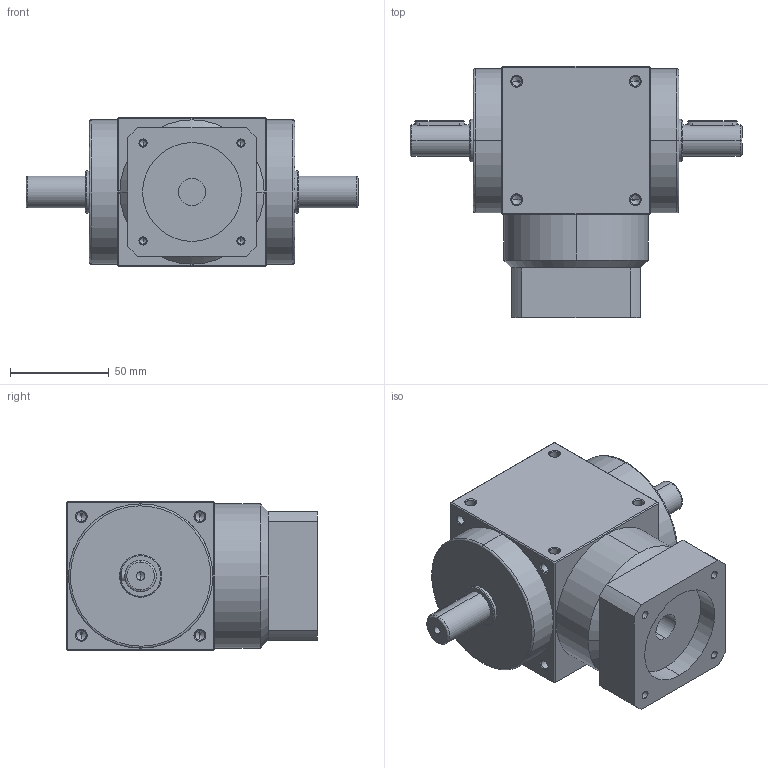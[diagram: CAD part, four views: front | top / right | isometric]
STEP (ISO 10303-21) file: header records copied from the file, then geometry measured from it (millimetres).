
FILE_DESCRIPTION (( 'STEP AP214' ), '1' );
FILE_NAME ('AT075-FL-001 14-50-70-M5.STEP', '2023-03-28T01:23:42', ( 'Admin' ), ( '' ), 'SwSTEP 2.0', 'SolidWorks 2018', '' );
FILE_SCHEMA (( 'AUTOMOTIVE_DESIGN' ));
Length unit declared in the file: millimetre
Products named in the file (1): AT075-FL-001 14-50-70-M5
Bounding box: 168 x 127 x 75 mm (x, y, z)
Volume: 743019 mm3; surface area: 63943.4 mm2
Topology: 1 solids, 1 shells, 293 faces, 720 edges, 394 vertices
Faces by surface type: cylinder 126, cone 102, plane 57, bspline 8
Entity records: 9380 total; most frequent: CARTESIAN_POINT 1960, DIRECTION 1348, ORIENTED_EDGE 1336, EDGE_CURVE 668, AXIS2_PLACEMENT_3D 518, VERTEX_POINT 394, EDGE_LOOP 334, VECTOR 312
